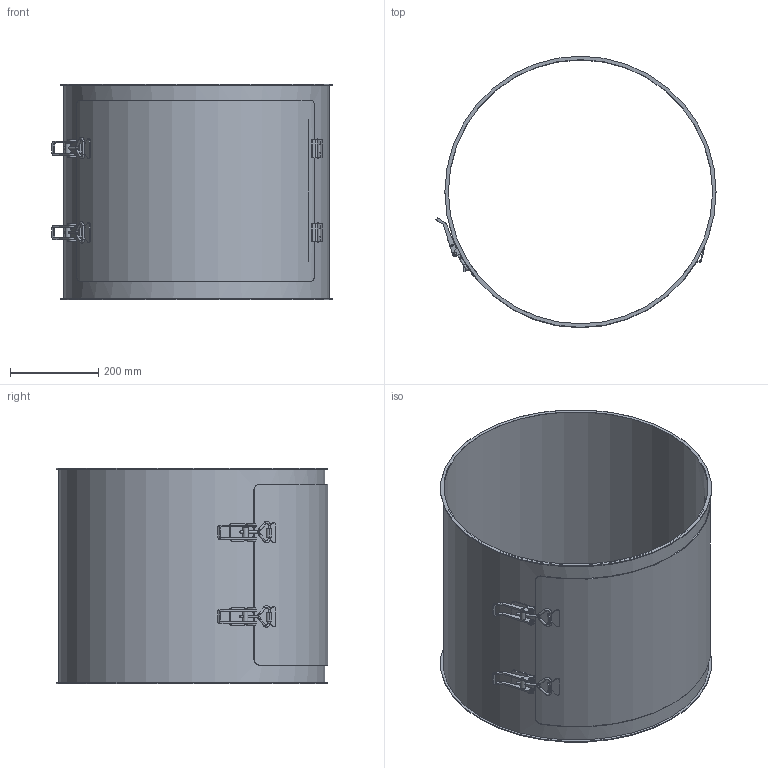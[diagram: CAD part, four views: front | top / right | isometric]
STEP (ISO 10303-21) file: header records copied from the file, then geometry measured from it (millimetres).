
FILE_DESCRIPTION((''),'2;1');
FILE_NAME('U:\Wolfgang\Marcel-3D\fertig\Kapitel 4\6021142.stp','2011-04-21T08:26:48',('TK1'),(''),'Autodesk Inventor 2010','Autodesk Inventor 2010','');
FILE_SCHEMA(('AUTOMOTIVE_DESIGN { 1 0 10303 214 1 1 1 1 }'));
Length unit declared in the file: millimetre
Products named in the file (14): 6021142; 6021142-Rohr; 6021142-verschluss; Verschluss ab 35-1; Verschluss ab 35-2; Verschluss ab 35-3; Verschluss ab 35-4; Verschluss ab 35-5; Gelenk60; Deckel60; 6021142 Halterung2; 6021142-Deckel; verschluss 60; 6021142 Halterung3
Assembly tree (19 placements, depth 3):
  6021142
    6021142-Rohr
    6021142-verschluss  x2
      Verschluss ab 35-1
      Verschluss ab 35-2
      Verschluss ab 35-3
      Verschluss ab 35-4
      Verschluss ab 35-5
    Gelenk60  x2
    Deckel60
      6021142 Halterung2  x2
      6021142-Deckel
      verschluss 60  x2
    6021142 Halterung3  x2
Bounding box: 634.25 x 614.19 x 488 mm (x, y, z)
Volume: 2075536.3 mm3; surface area: 2079007.3 mm2
Topology: 22 solids, 22 shells, 334 faces, 815 edges, 535 vertices
Faces by surface type: plane 157, cylinder 138, bspline 19, sphere 12, torus 8
Full cylindrical faces by diameter (mm): 4.917 x2, 5 x32, 6 x8, 12 x2, 598 x1, 602 x1, 614 x2
Entity records: 5903 total; most frequent: CARTESIAN_POINT 1326, DIRECTION 932, ORIENTED_EDGE 796, EDGE_CURVE 398, AXIS2_PLACEMENT_3D 363, VERTEX_POINT 279, EDGE_LOOP 241, VECTOR 206
